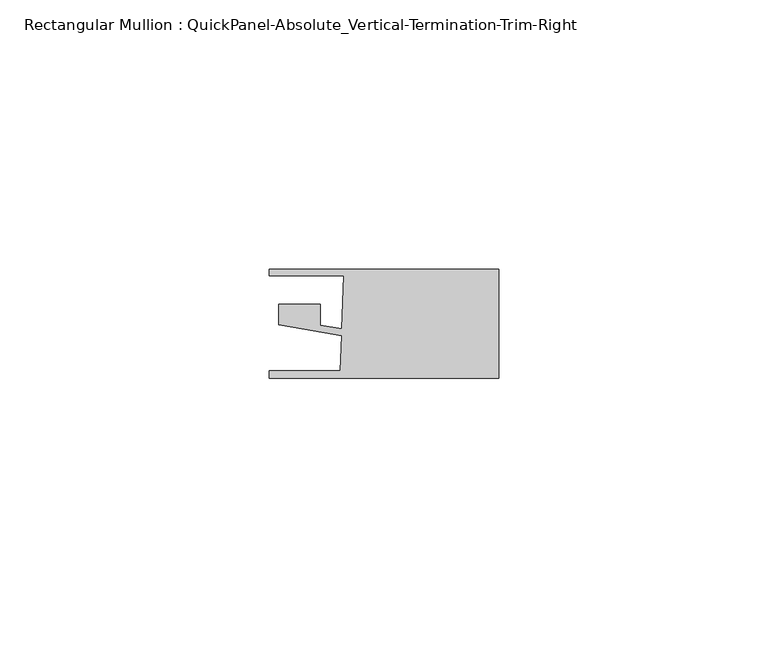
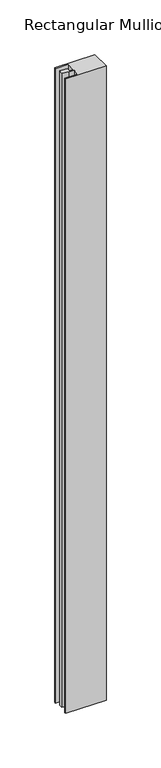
"""IFC4 building model written with IfcOpenShell, lengths in millimetres: member geometry, Rectangular Mullion : QuickPanel-Absolute_Vertical-Termination-Trim-Right."""

from ifc_helpers import new_model, si_unit, frame, origin, place, context, project, spatial, polyline, outline, extrude, source, transform, mapped, element, save


def rectangular_mullion_quickpanel_absolute_vertical_termination_d4317863(model_context):
    return source(origin(), model_context, "Body", "SweptSolid", [
        extrude(outline(polyline([(-42.7011763, -8.095605), (-42.7011763, -6.6935423), (-29.4602636, -6.6935423), (-29.2334784, -0.1992641), (-34.4837593, 0.7008023), (-40.919092, 1.8040245), (-40.919092, 5.6493034), (-33.1743189, 5.6493034), (-33.1743189, 1.7648465), (-29.1887499, 1.0815922), (-28.8448229, 10.9303752), (-42.7011763, 10.9303752), (-42.7011763, 12.1803727), (0.0, 12.1803727), (0.0, -8.095605), (-42.7011763, -8.095605)])), frame((0.0, 0.0, -709.4564025), z_axis=(0.0, 0.0, 1.0), x_axis=(1.0, 0.0, 0.0)), (0.0, 0.0, 1.0), 709.4564025),
    ])


if __name__ == "__main__":
    model = new_model("IFC4")
    model_context = context("Model", 3, world=origin())
    ifc_project = project(units=[si_unit("LENGTHUNIT", "METRE", prefix="MILLI")], contexts=[model_context])
    site = spatial("IfcSite", under=ifc_project)
    building = spatial("IfcBuilding", under=site)
    placement = place(None, origin())
    rectangular_mullion_quickpanel_absolute_vertical_termination_shape = rectangular_mullion_quickpanel_absolute_vertical_termination_d4317863(model_context)
    element("IfcMember", 1, ObjectType="Rectangular Mullion : QuickPanel-Absolute_Vertical-Termination-Trim-Right", at=placement, inside=building, context=model_context, shape_type="MappedRepresentation", body=[
        mapped(rectangular_mullion_quickpanel_absolute_vertical_termination_shape, transform((0.0, 0.0, 0.0), x_axis=(1.0, 0.0, 0.0), y_axis=(0.0, 1.0, 0.0), z_axis=(0.0, 0.0, 1.0))),
    ])
    save(model, "model.ifc")
